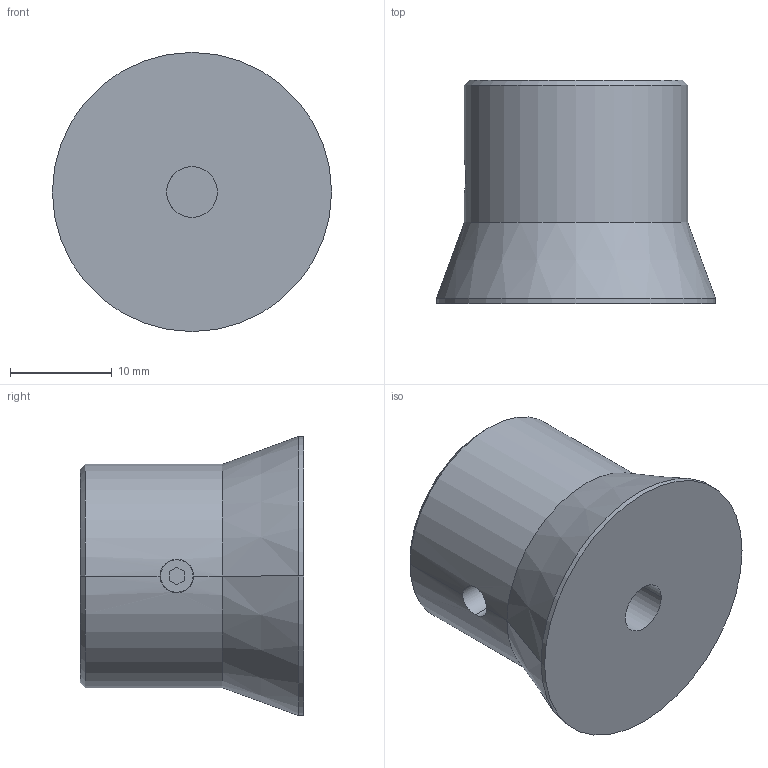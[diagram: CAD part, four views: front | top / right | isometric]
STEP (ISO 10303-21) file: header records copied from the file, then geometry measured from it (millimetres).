
FILE_DESCRIPTION (( 'STEP AP214' ), '1' );
FILE_NAME ('726.2-22-B5-B-1.step', '2020-04-06T07:31:50', ( '' ), ( '' ), 'SwSTEP 2.0', 'SolidWorks 2019', '' );
FILE_SCHEMA (( 'AUTOMOTIVE_DESIGN' ));
Length unit declared in the file: millimetre
Products named in the file (1): 726.2-22-B5-B-1
Bounding box: 27.5 x 22 x 27.5 mm (x, y, z)
Volume: 8129.5 mm3; surface area: 3356.9 mm2
Topology: 1 solids, 1 shells, 37 faces, 88 edges, 55 vertices
Faces by surface type: cylinder 14, plane 13, cone 10
Entity records: 1369 total; most frequent: CARTESIAN_POINT 285, DIRECTION 188, ORIENTED_EDGE 172, EDGE_CURVE 86, AXIS2_PLACEMENT_3D 72, VERTEX_POINT 55, LINE 44, VECTOR 44
